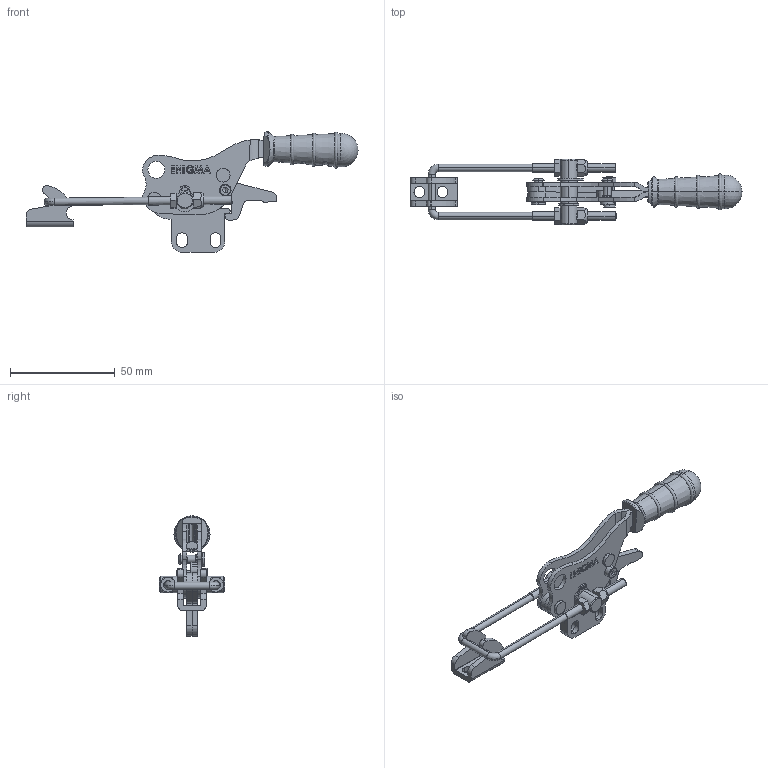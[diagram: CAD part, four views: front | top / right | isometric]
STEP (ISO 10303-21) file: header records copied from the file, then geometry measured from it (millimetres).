
FILE_DESCRIPTION (( 'STEP AP203' ), '1' );
FILE_NAME ('13104-D-K.STEP', '2023-07-11T12:38:48', ( '' ), ( '' ), 'SwSTEP 2.0', 'SolidWorks 2023', '' );
FILE_SCHEMA (( 'CONFIG_CONTROL_DESIGN' ));
Length unit declared in the file: millimetre
Products named in the file (1): 13104-D-K
Bounding box: 158.59 x 31.5 x 57.51 mm (x, y, z)
Volume: 21684.3 mm3; surface area: 21548.4 mm2
Topology: 19 solids, 19 shells, 760 faces, 1973 edges, 1278 vertices
Faces by surface type: plane 375, cylinder 224, cone 75, bspline 44, torus 40, sphere 2
Entity records: 26559 total; most frequent: CARTESIAN_POINT 7889, ORIENTED_EDGE 3930, DIRECTION 3770, EDGE_CURVE 1965, AXIS2_PLACEMENT_3D 1321, VERTEX_POINT 1274, VECTOR 1128, LINE 1128
